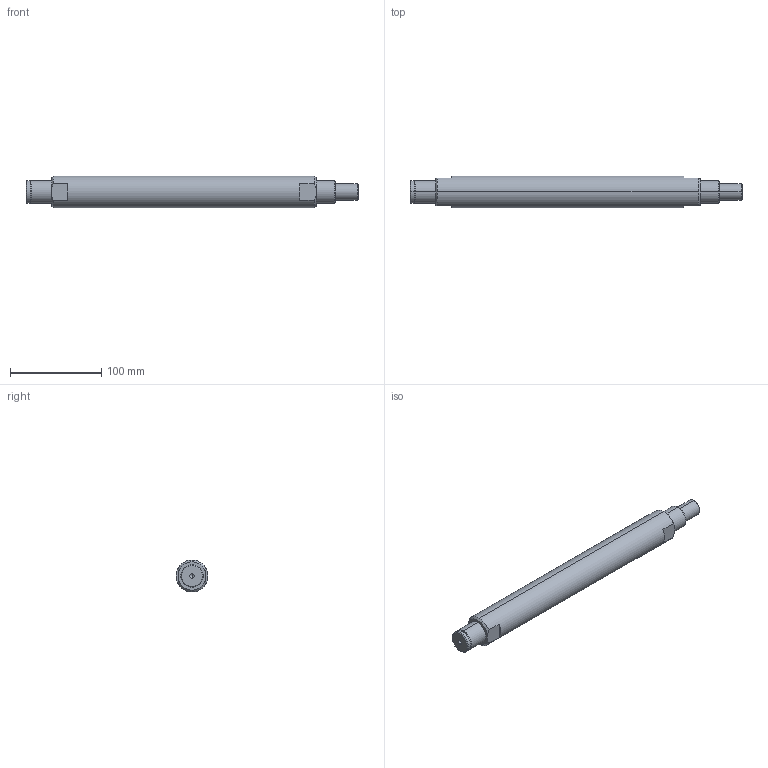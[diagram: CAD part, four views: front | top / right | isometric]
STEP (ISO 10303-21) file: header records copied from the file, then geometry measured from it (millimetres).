
FILE_DESCRIPTION (( 'STEP AP203' ), '1' );
FILE_NAME ('CY-DD-B007.step', '2023-12-27T04:44:10', ( '1' ), ( '' ), 'SwSTEP 2.0', 'SolidWorks 2022', '' );
FILE_SCHEMA (( 'CONFIG_CONTROL_DESIGN' ));
Length unit declared in the file: millimetre
Products named in the file (1): CY-DD-B007
Bounding box: 364 x 34.9 x 35 mm (x, y, z)
Volume: 305973.1 mm3; surface area: 39387.5 mm2
Topology: 1 solids, 1 shells, 47 faces, 108 edges, 66 vertices
Faces by surface type: cylinder 16, cone 16, plane 15
Entity records: 1427 total; most frequent: CARTESIAN_POINT 274, DIRECTION 244, ORIENTED_EDGE 208, EDGE_CURVE 104, AXIS2_PLACEMENT_3D 100, VERTEX_POINT 66, EDGE_LOOP 54, CIRCLE 52
